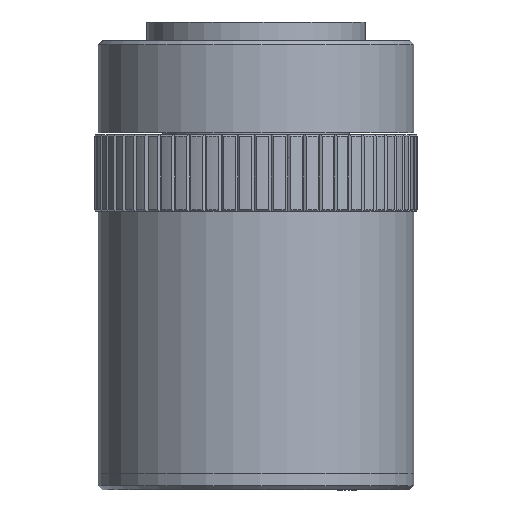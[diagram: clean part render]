
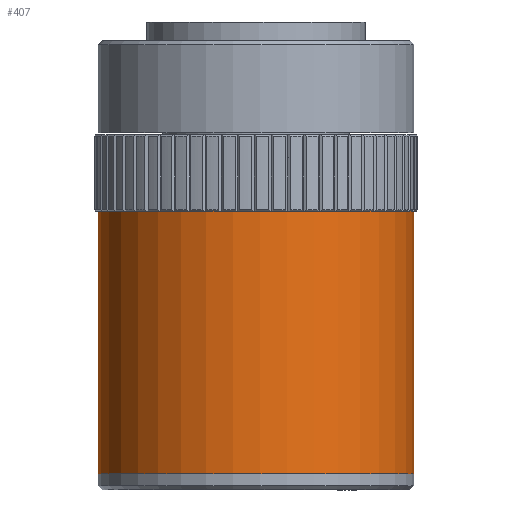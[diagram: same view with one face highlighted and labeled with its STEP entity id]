
A CAD part, front view. The second image highlights one B-rep face of the part: STEP entity #407.
In plain terms, the highlighted cylindrical face has radius 19.5 mm (diameter 39 mm), a full revolution.
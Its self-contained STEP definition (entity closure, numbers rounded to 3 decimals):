
#314 = CARTESIAN_POINT ( 'NONE',  ( 1591.923, 0., -23.4 ) ) ;
#407 = ADVANCED_FACE ( 'NONE', ( #984, #12703 ), #5336, .T. ) ;
#545 = CARTESIAN_POINT ( 'NONE',  ( 1595.793, -19.112, -55.8 ) ) ;
#602 = EDGE_CURVE ( 'NONE', #11437, #11437, #17410, .T. ) ;
#984 = FACE_OUTER_BOUND ( 'NONE', #11698, .T. ) ;
#2581 = EDGE_LOOP ( 'NONE', ( #15864 ) ) ;
#3474 = VERTEX_POINT ( 'NONE', #545 ) ;
#5336 = CYLINDRICAL_SURFACE ( 'NONE', #14744, 19.5 ) ;
#5784 = CARTESIAN_POINT ( 'NONE',  ( 1595.793, -19.112, -23.4 ) ) ;
#8408 = DIRECTION ( 'NONE',  ( 0.198, -0.98, 0. ) ) ;
#11118 = AXIS2_PLACEMENT_3D ( 'NONE', #314, #11746, #11654 ) ;
#11437 = VERTEX_POINT ( 'NONE', #5784 ) ;
#11575 = DIRECTION ( 'NONE',  ( 0., 0., 1. ) ) ;
#11654 = DIRECTION ( 'NONE',  ( 0.198, -0.98, 0. ) ) ;
#11698 = EDGE_LOOP ( 'NONE', ( #15226 ) ) ;
#11746 = DIRECTION ( 'NONE',  ( 0., 0., 1. ) ) ;
#12703 = FACE_OUTER_BOUND ( 'NONE', #2581, .T. ) ;
#13539 = CIRCLE ( 'NONE', #15987, 19.5 ) ;
#14209 = DIRECTION ( 'NONE',  ( 0.198, -0.98, 0. ) ) ;
#14744 = AXIS2_PLACEMENT_3D ( 'NONE', #18516, #11575, #8408 ) ;
#15148 = EDGE_CURVE ( 'NONE', #3474, #3474, #13539, .T. ) ;
#15226 = ORIENTED_EDGE ( 'NONE', *, *, #602, .F. ) ;
#15864 = ORIENTED_EDGE ( 'NONE', *, *, #15148, .T. ) ;
#15982 = DIRECTION ( 'NONE',  ( 0., 0., 1. ) ) ;
#15987 = AXIS2_PLACEMENT_3D ( 'NONE', #17362, #15982, #14209 ) ;
#17362 = CARTESIAN_POINT ( 'NONE',  ( 1591.923, 0., -55.8 ) ) ;
#17410 = CIRCLE ( 'NONE', #11118, 19.5 ) ;
#18516 = CARTESIAN_POINT ( 'NONE',  ( 1591.923, 0., 0. ) ) ;
